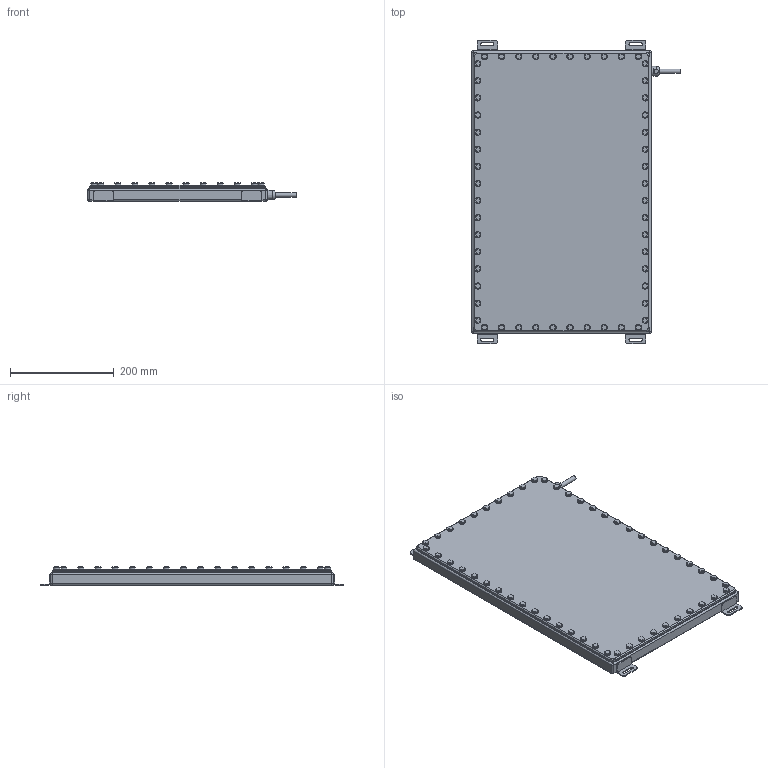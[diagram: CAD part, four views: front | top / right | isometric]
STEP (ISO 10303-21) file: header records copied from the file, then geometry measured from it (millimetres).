
FILE_DESCRIPTION (( 'STEP AP214' ), '1' );
FILE_NAME ('EFFI-BL-IP69K-300-500-ZZZ-FOOD.STEP', '2021-06-16T14:41:28', ( '' ), ( '' ), 'SwSTEP 2.0', 'SolidWorks 2021', '' );
FILE_SCHEMA (( 'AUTOMOTIVE_DESIGN' ));
Length unit declared in the file: millimetre
Products named in the file (1): EFFI-BL-IP69K-300-500-ZZZ-FOOD
Bounding box: 402 x 586 x 35.6 mm (x, y, z)
Volume: 5846941.8 mm3; surface area: 817050.3 mm2
Topology: 30 solids, 30 shells, 643 faces, 1475 edges, 966 vertices
Faces by surface type: plane 512, cylinder 106, bspline 9, sphere 8, cone 5, torus 3
Full cylindrical faces by diameter (mm): 7 x1, 8.4 x1, 12 x53, 14 x1, 19 x1
Entity records: 18944 total; most frequent: CARTESIAN_POINT 4046, DIRECTION 2869, ORIENTED_EDGE 2792, EDGE_CURVE 1396, LINE 1143, VECTOR 1143, VERTEX_POINT 954, AXIS2_PLACEMENT_3D 863
